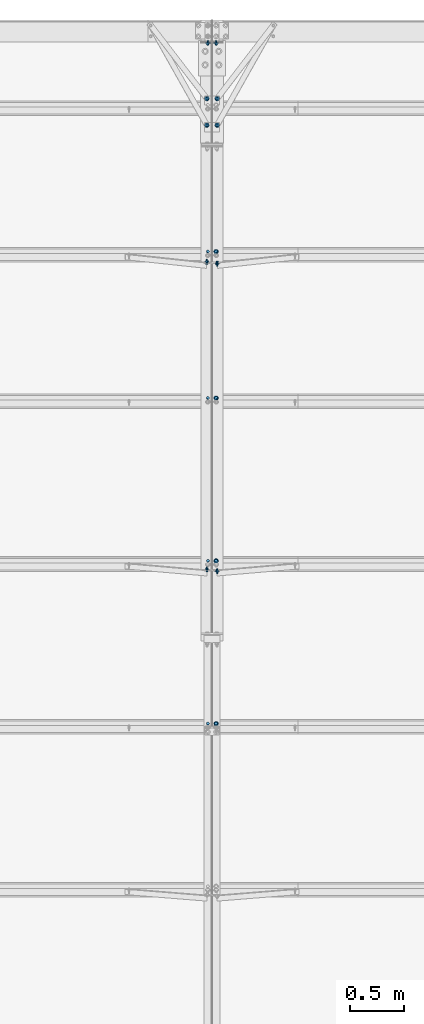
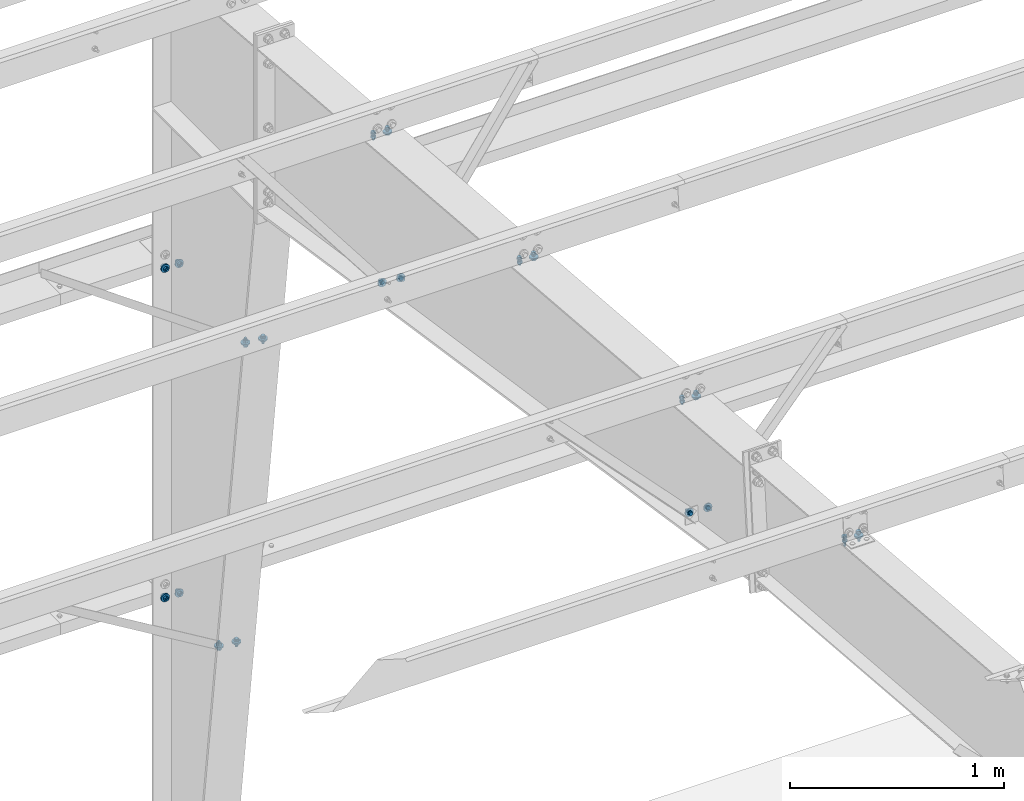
# One storey, part 161 of 185: 28 mechanical fasteners, 16 elements without a shape of their own.
"""IFC2X3 building model written with IfcOpenShell, lengths in millimetres."""

from ifc_helpers import new_model, si_unit, frame, origin_with_axes, origin_2d_with_axis, place, context, subcontext, project, spatial, polyline, circle, outline, extrude, source, transform, mapped, material, type_object, element, aggregate, save


model = new_model("IFC2X3")

# Units and contexts
model_context = context("Model", 3, precision=1e-05, world=origin_with_axes())
body_context = subcontext(model_context, "Body", "Model", "MODEL_VIEW")
ifc_project = project(units=[si_unit("LENGTHUNIT", "METRE", prefix="MILLI"), si_unit("AREAUNIT", "SQUARE_METRE"), si_unit("VOLUMEUNIT", "CUBIC_METRE"), si_unit("MASSUNIT", "GRAM", prefix="KILO"), si_unit("TIMEUNIT", "SECOND"), si_unit("PLANEANGLEUNIT", "RADIAN"), si_unit("SOLIDANGLEUNIT", "STERADIAN"), si_unit("THERMODYNAMICTEMPERATUREUNIT", "DEGREE_CELSIUS"), si_unit("LUMINOUSINTENSITYUNIT", "LUMEN")], contexts=[model_context])

# Site, building, storey
site_placement = place(None, origin_with_axes())
site = spatial("IfcSite", under=ifc_project, at=site_placement, Name="Undefined", CompositionType="ELEMENT")
building_placement = place(site_placement, origin_with_axes())
building = spatial("IfcBuilding", under=site, at=building_placement, Name="Undefined", CompositionType="ELEMENT")
storey_placement = place(building_placement, origin_with_axes())
storey = spatial("IfcBuildingStorey", under=building, at=storey_placement, Name="Undefined", CompositionType="ELEMENT", Elevation=0.0)

# Assembly, mechanical fastener
assembly_1_placement = place(storey_placement, origin_with_axes())
assembly_1 = element("IfcElementAssembly", 1, at=assembly_1_placement, inside=storey, Name="Steel Assembly", AssemblyPlace="NOTDEFINED", PredefinedType="RIGID_FRAME")
ifc_material_1 = material(Name="Undefined")
discrete_accessory_type = type_object("IfcDiscreteAccessoryType", Name="Bolt assembly")
shared_shape_1 = source(origin_with_axes(), body_context, "Body", "SweptSolid", [
    extrude(circle(Radius=7.14374971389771, at=origin_2d_with_axis()), frame((0.0, -1.59000001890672, 0.0), z_axis=(0.0, 1.0, 0.0), x_axis=(1.0, 0.0, 0.0)), (0.0, 0.0, 1.0), 1.7),
    extrude(outline(polyline([(10.9985221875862, 0.0), (5.4992610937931, 9.52499961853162), (-5.4992610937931, 9.52499961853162), (-10.9985221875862, 0.0), (-5.4992610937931, -9.52499961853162), (5.4992610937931, -9.52499961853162), (10.9985221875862, 0.0)])), frame((0.0, -15.0837496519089, 0.0), z_axis=(0.0, 1.0, 0.0), x_axis=(1.0, 0.0, 0.0)), (0.0, 0.0, 1.0), 9.5),
    extrude(circle(Radius=6.34999990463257, at=origin_2d_with_axis()), frame((0.0, -5.5587500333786, 0.0), z_axis=(0.0, 1.0, 0.0), x_axis=(1.0, 0.0, 0.0)), (0.0, 0.0, 1.0), 38.1),
    extrude(circle(Radius=13.4937496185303, at=origin_2d_with_axis()), frame((0.0, -5.5587500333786, 0.0), z_axis=(0.0, 1.0, 0.0), x_axis=(1.0, 0.0, 0.0)), (0.0, 0.0, 1.0), 4.0),
    extrude(circle(Radius=22.2250003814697, at=origin_2d_with_axis()), frame((0.0, 0.0, 0.0), z_axis=(0.0, 1.0, 0.0), x_axis=(1.0, 0.0, 0.0)), (0.0, 0.0, 1.0), 7.9),
    extrude(outline(polyline([(12.8316099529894, 0.0), (6.4158049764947, 11.1125001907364), (-6.4158049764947, 11.1125001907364), (-12.8316099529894, 0.0), (-6.4158049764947, -11.1125001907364), (6.4158049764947, -11.1125001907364), (12.8316099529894, 0.0)])), frame((0.0, 7.93750000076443, 0.0), z_axis=(0.0, 1.0, 0.0), x_axis=(1.0, 0.0, 0.0)), (0.0, 0.0, 1.0), 12.3),
])
mechanical_fastener_1_placement = place(assembly_1_placement, frame((22526.3218854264, 31022.2634783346, 4165.6), z_axis=(-0.871364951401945, 0.490635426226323, 0.0), x_axis=(0.490635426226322, 0.871364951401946, 0.0)))
mechanical_fastener_1 = element("IfcMechanicalFastener", 2, at=mechanical_fastener_1_placement, type_object=discrete_accessory_type, material=ifc_material_1, Name="Bolt assembly", NominalDiameter=12.6999998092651, NominalLength=38.0999984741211, context=body_context, shape_type="MappedRepresentation", body=[
    mapped(shared_shape_1, transform((0.0, 0.0, 0.0))),
])
aggregate(assembly_1, [mechanical_fastener_1])

assembly_2_placement = place(storey_placement, origin_with_axes())
assembly_2 = element("IfcElementAssembly", 3, at=assembly_2_placement, inside=storey, Name="Steel Assembly", AssemblyPlace="NOTDEFINED", PredefinedType="RIGID_FRAME")
mechanical_fastener_2_placement = place(assembly_2_placement, frame((22526.4399844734, 31270.1836420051, 2286.0), z_axis=(-0.793374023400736, 0.608734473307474, 0.0), x_axis=(0.608734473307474, 0.793374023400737, 0.0)))
mechanical_fastener_2 = element("IfcMechanicalFastener", 4, at=mechanical_fastener_2_placement, type_object=discrete_accessory_type, material=ifc_material_1, Name="Bolt assembly", NominalDiameter=12.6999998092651, NominalLength=38.0999984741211, context=body_context, shape_type="MappedRepresentation", body=[
    mapped(shared_shape_1, transform((0.0, 0.0, 0.0))),
])
aggregate(assembly_2, [mechanical_fastener_2])

assembly_3_placement = place(storey_placement, origin_with_axes())
assembly_3 = element("IfcElementAssembly", 5, at=assembly_3_placement, inside=storey, Name="Steel Assembly", AssemblyPlace="NOTDEFINED", PredefinedType="RIGID_FRAME")
mechanical_fastener_3_placement = place(assembly_3_placement, frame((22431.4738455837, 26870.2303027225, 5718.25976911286), z_axis=(-0.718860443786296, -0.0577294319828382, -0.692753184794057), x_axis=(-0.695154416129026, 0.0596981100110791, 0.716377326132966)))
mechanical_fastener_3 = element("IfcMechanicalFastener", 6, at=mechanical_fastener_3_placement, type_object=discrete_accessory_type, material=ifc_material_1, Name="Bolt assembly", NominalDiameter=12.6999998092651, NominalLength=38.0999984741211, context=body_context, shape_type="MappedRepresentation", body=[
    mapped(shared_shape_1, transform((0.0, 0.0, 0.0))),
])
aggregate(assembly_3, [mechanical_fastener_3])

assembly_4_placement = place(storey_placement, origin_with_axes())
assembly_4 = element("IfcElementAssembly", 7, at=assembly_4_placement, inside=storey, Name="Steel Assembly", AssemblyPlace="NOTDEFINED", PredefinedType="RIGID_FRAME")
mechanical_fastener_4_placement = place(assembly_4_placement, frame((22431.5578036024, 29740.0659329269, 5288.64606931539), z_axis=(-0.791478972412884, -0.0507570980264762, -0.609085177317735), x_axis=(-0.611196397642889, 0.065728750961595, 0.78874501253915)))
mechanical_fastener_4 = element("IfcMechanicalFastener", 8, at=mechanical_fastener_4_placement, type_object=discrete_accessory_type, material=ifc_material_1, Name="Bolt assembly", NominalDiameter=12.6999998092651, NominalLength=38.0999984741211, context=body_context, shape_type="MappedRepresentation", body=[
    mapped(shared_shape_1, transform((0.0, 0.0, 0.0))),
])
aggregate(assembly_4, [mechanical_fastener_4])

assembly_5_placement = place(storey_placement, origin_with_axes())
assembly_5 = element("IfcElementAssembly", 9, at=assembly_5_placement, inside=storey, Name="Steel Assembly", AssemblyPlace="NOTDEFINED", PredefinedType="RIGID_FRAME")
shared_shape_2 = source(origin_with_axes(), body_context, "Body", "SweptSolid", [
    extrude(circle(Radius=7.14374971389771, at=origin_2d_with_axis()), frame((0.0, 0.0, 0.0), z_axis=(0.0, 1.0, 0.0), x_axis=(1.0, 0.0, 0.0)), (0.0, 0.0, 1.0), 1.7),
    extrude(outline(polyline([(10.9985221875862, 0.0), (5.4992610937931, 9.52499961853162), (-5.4992610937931, 9.52499961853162), (-10.9985221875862, 0.0), (-5.4992610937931, -9.52499961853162), (5.4992610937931, -9.52499961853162), (10.9985221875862, 0.0)])), frame((0.0, -13.4937496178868, 0.0), z_axis=(0.0, 1.0, 0.0), x_axis=(1.0, 0.0, 0.0)), (0.0, 0.0, 1.0), 9.5),
    extrude(circle(Radius=6.34999990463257, at=origin_2d_with_axis()), frame((0.0, -3.96874999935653, 0.0), z_axis=(0.0, 1.0, 0.0), x_axis=(1.0, 0.0, 0.0)), (0.0, 0.0, 1.0), 38.1),
    extrude(circle(Radius=13.4937496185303, at=origin_2d_with_axis()), frame((0.0, -3.96874999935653, 0.0), z_axis=(0.0, 1.0, 0.0), x_axis=(1.0, 0.0, 0.0)), (0.0, 0.0, 1.0), 4.0),
    extrude(circle(Radius=22.2250003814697, at=origin_2d_with_axis()), frame((0.0, 1.5900000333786, 0.0), z_axis=(0.0, 1.0, 0.0), x_axis=(1.0, 0.0, 0.0)), (0.0, 0.0, 1.0), 7.9),
    extrude(outline(polyline([(12.8316099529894, 0.0), (6.4158049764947, 11.1125001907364), (-6.4158049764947, 11.1125001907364), (-12.8316099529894, 0.0), (-6.4158049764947, -11.1125001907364), (6.4158049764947, -11.1125001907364), (12.8316099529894, 0.0)])), frame((0.0, 9.5275000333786, 0.0), z_axis=(0.0, 1.0, 0.0), x_axis=(1.0, 0.0, 0.0)), (0.0, 0.0, 1.0), 12.3),
])
mechanical_fastener_5_placement = place(assembly_5_placement, frame((22431.6781145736, 31022.2634783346, 4165.6), z_axis=(0.871364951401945, 0.490635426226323, 0.0), x_axis=(-0.490635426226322, 0.871364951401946, 0.0)))
mechanical_fastener_5 = element("IfcMechanicalFastener", 10, at=mechanical_fastener_5_placement, type_object=discrete_accessory_type, material=ifc_material_1, Name="Bolt assembly", NominalDiameter=12.6999998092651, NominalLength=38.0999984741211, context=body_context, shape_type="MappedRepresentation", body=[
    mapped(shared_shape_2, transform((0.0, 0.0, 0.0))),
])
aggregate(assembly_5, [mechanical_fastener_5])

assembly_6_placement = place(storey_placement, origin_with_axes())
assembly_6 = element("IfcElementAssembly", 11, at=assembly_6_placement, inside=storey, Name="Steel Assembly", AssemblyPlace="NOTDEFINED", PredefinedType="RIGID_FRAME")
mechanical_fastener_6_placement = place(assembly_6_placement, frame((22431.5600155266, 31270.1836420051, 2286.0), z_axis=(0.793374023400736, 0.608734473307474, 0.0), x_axis=(-0.608734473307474, 0.793374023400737, 0.0)))
mechanical_fastener_6 = element("IfcMechanicalFastener", 12, at=mechanical_fastener_6_placement, type_object=discrete_accessory_type, material=ifc_material_1, Name="Bolt assembly", NominalDiameter=12.6999998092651, NominalLength=38.0999984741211, context=body_context, shape_type="MappedRepresentation", body=[
    mapped(shared_shape_2, transform((0.0, 0.0, 0.0))),
])
aggregate(assembly_6, [mechanical_fastener_6])

assembly_7_placement = place(storey_placement, origin_with_axes())
assembly_7 = element("IfcElementAssembly", 13, at=assembly_7_placement, inside=storey, Name="Steel Assembly", AssemblyPlace="NOTDEFINED", PredefinedType="RIGID_FRAME")
mechanical_fastener_7_placement = place(assembly_7_placement, frame((22526.5261544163, 26870.2303027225, 5718.25976911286), z_axis=(0.718860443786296, -0.0577294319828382, -0.692753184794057), x_axis=(0.695154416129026, 0.0596981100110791, 0.716377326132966)))
mechanical_fastener_7 = element("IfcMechanicalFastener", 14, at=mechanical_fastener_7_placement, type_object=discrete_accessory_type, material=ifc_material_1, Name="Bolt assembly", NominalDiameter=12.6999998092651, NominalLength=38.0999984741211, context=body_context, shape_type="MappedRepresentation", body=[
    mapped(shared_shape_2, transform((0.0, 0.0, 0.0))),
])
aggregate(assembly_7, [mechanical_fastener_7])

assembly_8_placement = place(storey_placement, origin_with_axes())
assembly_8 = element("IfcElementAssembly", 15, at=assembly_8_placement, inside=storey, Name="Steel Assembly", AssemblyPlace="NOTDEFINED", PredefinedType="RIGID_FRAME")
mechanical_fastener_8_placement = place(assembly_8_placement, frame((22526.4421963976, 29740.0659329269, 5288.64606931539), z_axis=(0.791478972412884, -0.0507570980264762, -0.609085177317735), x_axis=(0.611196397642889, 0.065728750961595, 0.78874501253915)))
mechanical_fastener_8 = element("IfcMechanicalFastener", 16, at=mechanical_fastener_8_placement, type_object=discrete_accessory_type, material=ifc_material_1, Name="Bolt assembly", NominalDiameter=12.6999998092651, NominalLength=38.0999984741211, context=body_context, shape_type="MappedRepresentation", body=[
    mapped(shared_shape_2, transform((0.0, 0.0, 0.0))),
])
aggregate(assembly_8, [mechanical_fastener_8])

# Assembly, mechanical fasteners
assembly_9_placement = place(storey_placement, origin_with_axes())
assembly_9 = element("IfcElementAssembly", 17, at=assembly_9_placement, inside=storey, Name="Steel Assembly", AssemblyPlace="NOTDEFINED", PredefinedType="RIGID_FRAME")
ifc_material_2 = material(Name="7990")
shared_shape_3 = source(origin_with_axes(), body_context, "Body", "SweptSolid", [
    extrude(circle(Radius=7.14374971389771, at=origin_2d_with_axis()), frame((0.0, -3.41600000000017, 0.0), z_axis=(0.0, 1.0, 0.0), x_axis=(1.0, 0.0, 0.0)), (0.0, 0.0, 1.0), 3.5),
    extrude(circle(Radius=11.4299998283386, at=origin_2d_with_axis()), frame((0.0, 0.0, 0.0), z_axis=(0.0, 1.0, 0.0), x_axis=(1.0, 0.0, 0.0)), (0.0, 0.0, 1.0), 4.2),
    extrude(outline(polyline([(12.171698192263, 0.0), (6.08584909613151, 10.5409998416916), (-6.08584909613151, 10.5409998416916), (-12.171698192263, 0.0), (-6.08584909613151, -10.5409998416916), (6.08584909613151, -10.5409998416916), (12.171698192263, 0.0)])), frame((0.0, 4.1909999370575, 0.0), z_axis=(0.0, 1.0, 0.0), x_axis=(1.0, 0.0, 0.0)), (0.0, 0.0, 1.0), 8.4),
])
mechanical_fastener_9_placement = place(assembly_9_placement, frame((22525.83125, 31021.3921133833, 4165.6), z_axis=(-0.921635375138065, -0.388057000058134, 0.0), x_axis=(0.388057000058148, -0.921635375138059, 0.0)))
mechanical_fastener_9 = element("IfcMechanicalFastener", 18, at=mechanical_fastener_9_placement, type_object=discrete_accessory_type, material=ifc_material_2, Name="Bolt assembly", NominalDiameter=12.6999998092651, NominalLength=38.0999984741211, context=body_context, shape_type="MappedRepresentation", body=[
    mapped(shared_shape_3, transform((0.0, 0.0, 0.0))),
])
mechanical_fastener_10_placement = place(assembly_9_placement, frame((22525.83125, 31269.3902679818, 2286.0), z_axis=(-0.921635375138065, -0.388057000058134, 0.0), x_axis=(0.388057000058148, -0.921635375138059, 0.0)))
mechanical_fastener_10 = element("IfcMechanicalFastener", 19, at=mechanical_fastener_10_placement, type_object=discrete_accessory_type, material=ifc_material_2, Name="Bolt assembly", NominalDiameter=12.6999998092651, NominalLength=38.0999984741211, context=body_context, shape_type="MappedRepresentation", body=[
    mapped(shared_shape_3, transform((0.0, 0.0, 0.0))),
])

assembly_10_placement = place(storey_placement, origin_with_axes())
assembly_10 = element("IfcElementAssembly", 20, at=assembly_10_placement, inside=storey, Name="Steel Assembly", AssemblyPlace="NOTDEFINED", PredefinedType="RIGID_FRAME")
mechanical_fastener_11_placement = place(assembly_10_placement, frame((22525.831, 26870.1706046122, 5717.54339178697), z_axis=(-0.921635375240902, -0.0322263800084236, -0.386716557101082), x_axis=(0.388056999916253, -0.0765376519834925, -0.918451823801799)))
mechanical_fastener_11 = element("IfcMechanicalFastener", 21, at=mechanical_fastener_11_placement, type_object=discrete_accessory_type, material=ifc_material_2, Name="Bolt assembly", NominalDiameter=12.6999998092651, NominalLength=38.0999984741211, context=body_context, shape_type="MappedRepresentation", body=[
    mapped(shared_shape_3, transform((0.0, 0.0, 0.0))),
])
mechanical_fastener_12_placement = place(assembly_10_placement, frame((22525.831, 29740.0002041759, 5287.85732430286), z_axis=(-0.921635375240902, -0.0322263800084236, -0.386716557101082), x_axis=(0.388056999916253, -0.0765376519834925, -0.918451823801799)))
mechanical_fastener_12 = element("IfcMechanicalFastener", 22, at=mechanical_fastener_12_placement, type_object=discrete_accessory_type, material=ifc_material_2, Name="Bolt assembly", NominalDiameter=12.6999998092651, NominalLength=38.0999984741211, context=body_context, shape_type="MappedRepresentation", body=[
    mapped(shared_shape_3, transform((0.0, 0.0, 0.0))),
])

# Mechanical fastener
shared_shape_4 = source(origin_with_axes(), body_context, "Body", "SweptSolid", [
    extrude(circle(Radius=7.14374971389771, at=origin_2d_with_axis()), frame((0.0, 0.0, 0.0), z_axis=(0.0, 1.0, 0.0), x_axis=(1.0, 0.0, 0.0)), (0.0, 0.0, 1.0), 3.5),
    extrude(circle(Radius=11.4299998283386, at=origin_2d_with_axis()), frame((0.0, 3.41600000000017, 0.0), z_axis=(0.0, 1.0, 0.0), x_axis=(1.0, 0.0, 0.0)), (0.0, 0.0, 1.0), 4.2),
    extrude(outline(polyline([(12.171698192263, 0.0), (6.08584909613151, 10.5409998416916), (-6.08584909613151, 10.5409998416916), (-12.171698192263, 0.0), (-6.08584909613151, -10.5409998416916), (6.08584909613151, -10.5409998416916), (12.171698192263, 0.0)])), frame((0.0, 7.60699993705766, 0.0), z_axis=(0.0, 1.0, 0.0), x_axis=(1.0, 0.0, 0.0)), (0.0, 0.0, 1.0), 8.4),
])
mechanical_fastener_13_placement = place(assembly_9_placement, frame((22432.16875, 31021.3921133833, 4165.6), z_axis=(0.921635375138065, -0.388057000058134, 0.0), x_axis=(-0.388057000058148, -0.921635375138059, 0.0)))
mechanical_fastener_13 = element("IfcMechanicalFastener", 23, at=mechanical_fastener_13_placement, type_object=discrete_accessory_type, material=ifc_material_2, Name="Bolt assembly", NominalDiameter=12.6999998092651, NominalLength=38.0999984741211, context=body_context, shape_type="MappedRepresentation", body=[
    mapped(shared_shape_4, transform((0.0, 0.0, 0.0))),
])

mechanical_fastener_14_placement = place(assembly_9_placement, frame((22432.16875, 31269.3902679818, 2286.0), z_axis=(0.921635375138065, -0.388057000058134, 0.0), x_axis=(-0.388057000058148, -0.921635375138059, 0.0)))
mechanical_fastener_14 = element("IfcMechanicalFastener", 24, at=mechanical_fastener_14_placement, type_object=discrete_accessory_type, material=ifc_material_2, Name="Bolt assembly", NominalDiameter=12.6999998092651, NominalLength=38.0999984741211, context=body_context, shape_type="MappedRepresentation", body=[
    mapped(shared_shape_4, transform((0.0, 0.0, 0.0))),
])

aggregate(assembly_9, [mechanical_fastener_9, mechanical_fastener_13, mechanical_fastener_10, mechanical_fastener_14])

mechanical_fastener_15_placement = place(assembly_10_placement, frame((22432.169, 26870.1706046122, 5717.54339178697), z_axis=(0.921635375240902, -0.0322263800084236, -0.386716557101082), x_axis=(-0.388056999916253, -0.0765376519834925, -0.918451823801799)))
mechanical_fastener_15 = element("IfcMechanicalFastener", 25, at=mechanical_fastener_15_placement, type_object=discrete_accessory_type, material=ifc_material_2, Name="Bolt assembly", NominalDiameter=12.6999998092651, NominalLength=38.0999984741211, context=body_context, shape_type="MappedRepresentation", body=[
    mapped(shared_shape_4, transform((0.0, 0.0, 0.0))),
])

mechanical_fastener_16_placement = place(assembly_10_placement, frame((22432.169, 29740.0002041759, 5287.85732430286), z_axis=(0.921635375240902, -0.0322263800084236, -0.386716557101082), x_axis=(-0.388056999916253, -0.0765376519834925, -0.918451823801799)))
mechanical_fastener_16 = element("IfcMechanicalFastener", 26, at=mechanical_fastener_16_placement, type_object=discrete_accessory_type, material=ifc_material_2, Name="Bolt assembly", NominalDiameter=12.6999998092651, NominalLength=38.0999984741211, context=body_context, shape_type="MappedRepresentation", body=[
    mapped(shared_shape_4, transform((0.0, 0.0, 0.0))),
])

aggregate(assembly_10, [mechanical_fastener_15, mechanical_fastener_11, mechanical_fastener_16, mechanical_fastener_12])

# Assembly, mechanical fasteners
assembly_11_placement = place(storey_placement, origin_with_axes())
assembly_11 = element("IfcElementAssembly", 27, at=assembly_11_placement, inside=storey, Name="Steel Assembly", AssemblyPlace="NOTDEFINED", PredefinedType="RIGID_FRAME")
shared_shape_5 = source(origin_with_axes(), body_context, "Body", "SweptSolid", [
    extrude(circle(Radius=7.14374971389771, at=origin_2d_with_axis()), frame((0.0, -3.08000006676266, 0.0), z_axis=(0.0, 1.0, 0.0), x_axis=(1.0, 0.0, 0.0)), (0.0, 0.0, 1.0), 3.2),
    extrude(circle(Radius=7.14374971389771, at=origin_2d_with_axis()), frame((0.0, -3.08000006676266, 0.0), z_axis=(0.0, 1.0, 0.0), x_axis=(1.0, 0.0, 0.0)), (0.0, 0.0, 1.0), 3.2),
    extrude(circle(Radius=7.14374971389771, at=origin_2d_with_axis()), frame((0.0, -0.1, 0.0), z_axis=(0.0, 1.0, 0.0), x_axis=(1.0, 0.0, 0.0)), (0.0, 0.0, 1.0), 8.0),
    extrude(outline(polyline([(10.9985221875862, 0.0), (5.4992610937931, 9.52499961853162), (-5.4992610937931, 9.52499961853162), (-10.9985221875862, 0.0), (-5.4992610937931, -9.52499961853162), (5.4992610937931, -9.52499961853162), (10.9985221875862, 0.0)])), frame((0.0, -12.7050014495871, 0.0), z_axis=(0.0, 1.0, 0.0), x_axis=(1.0, 0.0, 0.0)), (0.0, 0.0, 1.0), 9.5),
    extrude(circle(Radius=6.34999990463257, at=origin_2d_with_axis()), frame((0.0, -3.18000030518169, 0.0), z_axis=(0.0, 1.0, 0.0), x_axis=(1.0, 0.0, 0.0)), (0.0, 0.0, 1.0), 38.1),
    extrude(circle(Radius=22.2250003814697, at=origin_2d_with_axis()), frame((0.0, 7.87399999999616, 0.0), z_axis=(0.0, 1.0, 0.0), x_axis=(1.0, 0.0, 0.0)), (0.0, 0.0, 1.0), 7.9),
    extrude(outline(polyline([(12.8316099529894, 0.0), (6.4158049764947, 11.1125001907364), (-6.4158049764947, 11.1125001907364), (-12.8316099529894, 0.0), (-6.4158049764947, -11.1125001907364), (6.4158049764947, -11.1125001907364), (12.8316099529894, 0.0)])), frame((0.0, 15.8114999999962, 0.0), z_axis=(0.0, 1.0, 0.0), x_axis=(1.0, 0.0, 0.0)), (0.0, 0.0, 1.0), 12.3),
])
mechanical_fastener_17_placement = place(assembly_11_placement, frame((22440.9, 31800.8, 2247.9), z_axis=(-1.0, 0.0, 0.0), x_axis=(0.0, 0.0, -1.0)))
mechanical_fastener_17 = element("IfcMechanicalFastener", 28, at=mechanical_fastener_17_placement, type_object=discrete_accessory_type, material=ifc_material_1, Name="Bolt assembly", NominalDiameter=12.6999998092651, NominalLength=38.0999984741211, context=body_context, shape_type="MappedRepresentation", body=[
    mapped(shared_shape_5, transform((0.0, 0.0, 0.0))),
])
mechanical_fastener_18_placement = place(assembly_11_placement, frame((22517.1, 31800.8, 2247.9), z_axis=(-1.0, 0.0, 0.0), x_axis=(0.0, 0.0, -1.0)))
mechanical_fastener_18 = element("IfcMechanicalFastener", 29, at=mechanical_fastener_18_placement, type_object=discrete_accessory_type, material=ifc_material_1, Name="Bolt assembly", NominalDiameter=12.6999998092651, NominalLength=38.0999984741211, context=body_context, shape_type="MappedRepresentation", body=[
    mapped(shared_shape_5, transform((0.0, 0.0, 0.0))),
])
aggregate(assembly_11, [mechanical_fastener_17, mechanical_fastener_18])

assembly_12_placement = place(storey_placement, origin_with_axes())
assembly_12 = element("IfcElementAssembly", 30, at=assembly_12_placement, inside=storey, Name="Steel Assembly", AssemblyPlace="NOTDEFINED", PredefinedType="RIGID_FRAME")
mechanical_fastener_19_placement = place(assembly_12_placement, frame((22440.9, 31800.8, 4127.5), z_axis=(-1.0, 0.0, 0.0), x_axis=(0.0, 0.0, -1.0)))
mechanical_fastener_19 = element("IfcMechanicalFastener", 31, at=mechanical_fastener_19_placement, type_object=discrete_accessory_type, material=ifc_material_1, Name="Bolt assembly", NominalDiameter=12.6999998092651, NominalLength=38.0999984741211, context=body_context, shape_type="MappedRepresentation", body=[
    mapped(shared_shape_5, transform((0.0, 0.0, 0.0))),
])
mechanical_fastener_20_placement = place(assembly_12_placement, frame((22517.1, 31800.8, 4127.5), z_axis=(-1.0, 0.0, 0.0), x_axis=(0.0, 0.0, -1.0)))
mechanical_fastener_20 = element("IfcMechanicalFastener", 32, at=mechanical_fastener_20_placement, type_object=discrete_accessory_type, material=ifc_material_1, Name="Bolt assembly", NominalDiameter=12.6999998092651, NominalLength=38.0999984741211, context=body_context, shape_type="MappedRepresentation", body=[
    mapped(shared_shape_5, transform((0.0, 0.0, 0.0))),
])
aggregate(assembly_12, [mechanical_fastener_19, mechanical_fastener_20])

assembly_13_placement = place(storey_placement, origin_with_axes())
assembly_13 = element("IfcElementAssembly", 33, at=assembly_13_placement, inside=storey, Name="Steel Assembly", AssemblyPlace="NOTDEFINED", PredefinedType="RIGID_FRAME")
shared_shape_6 = source(origin_with_axes(), body_context, "Body", "SweptSolid", [
    extrude(circle(Radius=7.14374971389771, at=origin_2d_with_axis()), frame((0.0, -0.0238014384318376, 0.0), z_axis=(0.0, 1.0, 0.0), x_axis=(1.0, 0.0, 0.0)), (0.0, 0.0, 1.0), 8.0),
    extrude(circle(Radius=7.14374971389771, at=origin_2d_with_axis()), frame((0.0, -3.08000006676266, 0.0), z_axis=(0.0, 1.0, 0.0), x_axis=(1.0, 0.0, 0.0)), (0.0, 0.0, 1.0), 3.2),
    extrude(circle(Radius=7.14374971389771, at=origin_2d_with_axis()), frame((0.0, -3.08000006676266, 0.0), z_axis=(0.0, 1.0, 0.0), x_axis=(1.0, 0.0, 0.0)), (0.0, 0.0, 1.0), 3.2),
    extrude(outline(polyline([(12.8316099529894, 0.0), (6.4158049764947, 11.1125001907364), (-6.4158049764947, 11.1125001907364), (-12.8316099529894, 0.0), (-6.4158049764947, -11.1125001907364), (6.4158049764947, -11.1125001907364), (12.8316099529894, 0.0)])), frame((0.0, -15.08625183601, 0.0), z_axis=(0.0, 1.0, 0.0), x_axis=(1.0, 0.0, 0.0)), (0.0, 0.0, 1.0), 7.9),
    extrude(circle(Radius=6.34999990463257, at=origin_2d_with_axis()), frame((0.0, -7.14875006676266, 0.0), z_axis=(0.0, 1.0, 0.0), x_axis=(1.0, 0.0, 0.0)), (0.0, 0.0, 1.0), 50.8),
    extrude(circle(Radius=13.4937496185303, at=origin_2d_with_axis()), frame((0.0, -7.14875006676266, 0.0), z_axis=(0.0, 1.0, 0.0), x_axis=(1.0, 0.0, 0.0)), (0.0, 0.0, 1.0), 4.0),
    extrude(circle(Radius=22.2250003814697, at=origin_2d_with_axis()), frame((0.0, 7.95019856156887, 0.0), z_axis=(0.0, 1.0, 0.0), x_axis=(1.0, 0.0, 0.0)), (0.0, 0.0, 1.0), 7.9),
    extrude(outline(polyline([(12.8316099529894, 0.0), (6.4158049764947, 11.1125001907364), (-6.4158049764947, 11.1125001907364), (-12.8316099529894, 0.0), (-6.4158049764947, -11.1125001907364), (6.4158049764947, -11.1125001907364), (12.8316099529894, 0.0)])), frame((0.0, 15.8876985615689, 0.0), z_axis=(0.0, 1.0, 0.0), x_axis=(1.0, 0.0, 0.0)), (0.0, 0.0, 1.0), 12.3),
])
mechanical_fastener_21_placement = place(assembly_13_placement, frame((22517.1, 25439.2546863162, 6439.15777570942), z_axis=(-1.0, 0.0, 0.0), x_axis=(0.0, 0.996545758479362, -0.0830454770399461)))
mechanical_fastener_21 = element("IfcMechanicalFastener", 34, at=mechanical_fastener_21_placement, type_object=discrete_accessory_type, material=ifc_material_1, Name="Bolt assembly", NominalDiameter=12.6999998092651, NominalLength=50.7999992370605, context=body_context, shape_type="MappedRepresentation", body=[
    mapped(shared_shape_6, transform((0.0, 0.0, 0.0))),
])
shared_shape_7 = source(origin_with_axes(), body_context, "Body", "SweptSolid", [
    extrude(circle(Radius=7.14374971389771, at=origin_2d_with_axis()), frame((0.0, -0.0238014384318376, 0.0), z_axis=(0.0, 1.0, 0.0), x_axis=(1.0, 0.0, 0.0)), (0.0, 0.0, 1.0), 8.0),
    extrude(circle(Radius=7.14374971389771, at=origin_2d_with_axis()), frame((0.0, -3.08000006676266, 0.0), z_axis=(0.0, 1.0, 0.0), x_axis=(1.0, 0.0, 0.0)), (0.0, 0.0, 1.0), 3.2),
    extrude(circle(Radius=7.14374971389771, at=origin_2d_with_axis()), frame((0.0, -3.08000006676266, 0.0), z_axis=(0.0, 1.0, 0.0), x_axis=(1.0, 0.0, 0.0)), (0.0, 0.0, 1.0), 3.2),
    extrude(outline(polyline([(12.8316099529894, 0.0), (6.4158049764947, 11.1125001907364), (-6.4158049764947, 11.1125001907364), (-12.8316099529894, 0.0), (-6.4158049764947, -11.1125001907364), (6.4158049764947, -11.1125001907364), (12.8316099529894, 0.0)])), frame((0.0, -15.08625183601, 0.0), z_axis=(0.0, 1.0, 0.0), x_axis=(1.0, 0.0, 0.0)), (0.0, 0.0, 1.0), 7.9),
    extrude(circle(Radius=6.34999990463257, at=origin_2d_with_axis()), frame((0.0, -7.14875006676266, 0.0), z_axis=(0.0, 1.0, 0.0), x_axis=(1.0, 0.0, 0.0)), (0.0, 0.0, 1.0), 50.8),
    extrude(circle(Radius=13.4937496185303, at=origin_2d_with_axis()), frame((0.0, -7.14875006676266, 0.0), z_axis=(0.0, 1.0, 0.0), x_axis=(1.0, 0.0, 0.0)), (0.0, 0.0, 1.0), 4.0),
    extrude(outline(polyline([(12.8316099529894, 0.0), (6.4158049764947, 11.1125001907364), (-6.4158049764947, 11.1125001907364), (-12.8316099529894, 0.0), (-6.4158049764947, -11.1125001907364), (6.4158049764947, -11.1125001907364), (12.8316099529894, 0.0)])), frame((0.0, 7.95019856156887, 0.0), z_axis=(0.0, 1.0, 0.0), x_axis=(1.0, 0.0, 0.0)), (0.0, 0.0, 1.0), 12.3),
])
mechanical_fastener_22_placement = place(assembly_13_placement, frame((22440.9, 25439.2546863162, 6439.15777570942), z_axis=(-1.0, 0.0, 0.0), x_axis=(0.0, 0.996545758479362, -0.0830454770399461)))
mechanical_fastener_22 = element("IfcMechanicalFastener", 35, at=mechanical_fastener_22_placement, type_object=discrete_accessory_type, material=ifc_material_1, Name="Bolt assembly", NominalDiameter=12.6999998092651, NominalLength=50.7999992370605, context=body_context, shape_type="MappedRepresentation", body=[
    mapped(shared_shape_7, transform((0.0, 0.0, 0.0))),
])
aggregate(assembly_13, [mechanical_fastener_21, mechanical_fastener_22])

# Assembly, mechanical fastener
assembly_14_placement = place(storey_placement, origin_with_axes())
assembly_14 = element("IfcElementAssembly", 36, at=assembly_14_placement, inside=storey, Name="Steel Assembly", AssemblyPlace="NOTDEFINED", PredefinedType="RIGID_FRAME")
shared_shape_8 = source(origin_with_axes(), body_context, "Body", "SweptSolid", [
    extrude(circle(Radius=7.14374971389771, at=origin_2d_with_axis()), frame((0.0, -0.0238014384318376, 0.0), z_axis=(0.0, 1.0, 0.0), x_axis=(1.0, 0.0, 0.0)), (0.0, 0.0, 1.0), 8.0),
    extrude(circle(Radius=7.14374971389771, at=origin_2d_with_axis()), frame((0.0, -3.08000006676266, 0.0), z_axis=(0.0, 1.0, 0.0), x_axis=(1.0, 0.0, 0.0)), (0.0, 0.0, 1.0), 3.2),
    extrude(circle(Radius=7.14374971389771, at=origin_2d_with_axis()), frame((0.0, -3.08000006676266, 0.0), z_axis=(0.0, 1.0, 0.0), x_axis=(1.0, 0.0, 0.0)), (0.0, 0.0, 1.0), 3.2),
    extrude(outline(polyline([(10.9985221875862, 0.0), (5.4992610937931, 9.52499961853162), (-5.4992610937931, 9.52499961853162), (-10.9985221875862, 0.0), (-5.4992610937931, -9.52499961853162), (5.4992610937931, -9.52499961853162), (10.9985221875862, 0.0)])), frame((0.0, -16.6737496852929, 0.0), z_axis=(0.0, 1.0, 0.0), x_axis=(1.0, 0.0, 0.0)), (0.0, 0.0, 1.0), 9.5),
    extrude(circle(Radius=6.34999990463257, at=origin_2d_with_axis()), frame((0.0, -7.14875006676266, 0.0), z_axis=(0.0, 1.0, 0.0), x_axis=(1.0, 0.0, 0.0)), (0.0, 0.0, 1.0), 38.1),
    extrude(circle(Radius=13.4937496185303, at=origin_2d_with_axis()), frame((0.0, -7.14875006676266, 0.0), z_axis=(0.0, 1.0, 0.0), x_axis=(1.0, 0.0, 0.0)), (0.0, 0.0, 1.0), 4.0),
    extrude(circle(Radius=22.2250003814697, at=origin_2d_with_axis()), frame((0.0, 7.95019856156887, 0.0), z_axis=(0.0, 1.0, 0.0), x_axis=(1.0, 0.0, 0.0)), (0.0, 0.0, 1.0), 7.9),
    extrude(outline(polyline([(12.8316099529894, 0.0), (6.4158049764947, 11.1125001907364), (-6.4158049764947, 11.1125001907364), (-12.8316099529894, 0.0), (-6.4158049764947, -11.1125001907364), (6.4158049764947, -11.1125001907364), (12.8316099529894, 0.0)])), frame((0.0, 15.8876985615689, 0.0), z_axis=(0.0, 1.0, 0.0), x_axis=(1.0, 0.0, 0.0)), (0.0, 0.0, 1.0), 12.3),
])
mechanical_fastener_23_placement = place(assembly_14_placement, frame((22517.1, 29843.5883209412, 6072.12997209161), z_axis=(-1.0, 0.0, 0.0), x_axis=(0.0, 0.996545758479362, -0.0830454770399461)))
mechanical_fastener_23 = element("IfcMechanicalFastener", 37, at=mechanical_fastener_23_placement, type_object=discrete_accessory_type, material=ifc_material_1, Name="Bolt assembly", NominalDiameter=12.6999998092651, NominalLength=38.0999984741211, context=body_context, shape_type="MappedRepresentation", body=[
    mapped(shared_shape_8, transform((0.0, 0.0, 0.0))),
])

assembly_15_placement = place(storey_placement, origin_with_axes())
assembly_15 = element("IfcElementAssembly", 38, at=assembly_15_placement, inside=storey, Name="Steel Assembly", AssemblyPlace="NOTDEFINED", PredefinedType="RIGID_FRAME")
mechanical_fastener_24_placement = place(assembly_15_placement, frame((22517.1, 28476.7261589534, 6186.03515249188), z_axis=(-1.0, 0.0, 0.0), x_axis=(0.0, 0.996545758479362, -0.0830454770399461)))
mechanical_fastener_24 = element("IfcMechanicalFastener", 39, at=mechanical_fastener_24_placement, type_object=discrete_accessory_type, material=ifc_material_1, Name="Bolt assembly", NominalDiameter=12.6999998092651, NominalLength=38.0999984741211, context=body_context, shape_type="MappedRepresentation", body=[
    mapped(shared_shape_8, transform((0.0, 0.0, 0.0))),
])

assembly_16_placement = place(storey_placement, origin_with_axes())
assembly_16 = element("IfcElementAssembly", 40, at=assembly_16_placement, inside=storey, Name="Steel Assembly", AssemblyPlace="NOTDEFINED", PredefinedType="RIGID_FRAME")
mechanical_fastener_25_placement = place(assembly_16_placement, frame((22517.1, 26957.9904234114, 6312.59646404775), z_axis=(-1.0, 0.0, 0.0), x_axis=(0.0, 0.996545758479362, -0.0830454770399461)))
mechanical_fastener_25 = element("IfcMechanicalFastener", 41, at=mechanical_fastener_25_placement, type_object=discrete_accessory_type, material=ifc_material_1, Name="Bolt assembly", NominalDiameter=12.6999998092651, NominalLength=38.0999984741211, context=body_context, shape_type="MappedRepresentation", body=[
    mapped(shared_shape_8, transform((0.0, 0.0, 0.0))),
])

# Mechanical fastener
shared_shape_9 = source(origin_with_axes(), body_context, "Body", "SweptSolid", [
    extrude(circle(Radius=7.14374971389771, at=origin_2d_with_axis()), frame((0.0, -0.0238014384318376, 0.0), z_axis=(0.0, 1.0, 0.0), x_axis=(1.0, 0.0, 0.0)), (0.0, 0.0, 1.0), 8.0),
    extrude(circle(Radius=7.14374971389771, at=origin_2d_with_axis()), frame((0.0, -3.08000006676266, 0.0), z_axis=(0.0, 1.0, 0.0), x_axis=(1.0, 0.0, 0.0)), (0.0, 0.0, 1.0), 3.2),
    extrude(circle(Radius=7.14374971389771, at=origin_2d_with_axis()), frame((0.0, -3.08000006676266, 0.0), z_axis=(0.0, 1.0, 0.0), x_axis=(1.0, 0.0, 0.0)), (0.0, 0.0, 1.0), 3.2),
    extrude(outline(polyline([(10.9985221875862, 0.0), (5.4992610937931, 9.52499961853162), (-5.4992610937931, 9.52499961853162), (-10.9985221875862, 0.0), (-5.4992610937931, -9.52499961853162), (5.4992610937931, -9.52499961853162), (10.9985221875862, 0.0)])), frame((0.0, -16.6737496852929, 0.0), z_axis=(0.0, 1.0, 0.0), x_axis=(1.0, 0.0, 0.0)), (0.0, 0.0, 1.0), 9.5),
    extrude(circle(Radius=6.34999990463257, at=origin_2d_with_axis()), frame((0.0, -7.14875006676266, 0.0), z_axis=(0.0, 1.0, 0.0), x_axis=(1.0, 0.0, 0.0)), (0.0, 0.0, 1.0), 38.1),
    extrude(circle(Radius=13.4937496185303, at=origin_2d_with_axis()), frame((0.0, -7.14875006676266, 0.0), z_axis=(0.0, 1.0, 0.0), x_axis=(1.0, 0.0, 0.0)), (0.0, 0.0, 1.0), 4.0),
    extrude(outline(polyline([(12.8316099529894, 0.0), (6.4158049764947, 11.1125001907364), (-6.4158049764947, 11.1125001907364), (-12.8316099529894, 0.0), (-6.4158049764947, -11.1125001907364), (6.4158049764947, -11.1125001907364), (12.8316099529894, 0.0)])), frame((0.0, 7.95019856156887, 0.0), z_axis=(0.0, 1.0, 0.0), x_axis=(1.0, 0.0, 0.0)), (0.0, 0.0, 1.0), 12.3),
])
mechanical_fastener_26_placement = place(assembly_14_placement, frame((22440.9, 29843.5883209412, 6072.12997209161), z_axis=(-1.0, 0.0, 0.0), x_axis=(0.0, 0.996545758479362, -0.0830454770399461)))
mechanical_fastener_26 = element("IfcMechanicalFastener", 42, at=mechanical_fastener_26_placement, type_object=discrete_accessory_type, material=ifc_material_1, Name="Bolt assembly", NominalDiameter=12.6999998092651, NominalLength=38.0999984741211, context=body_context, shape_type="MappedRepresentation", body=[
    mapped(shared_shape_9, transform((0.0, 0.0, 0.0))),
])

aggregate(assembly_14, [mechanical_fastener_23, mechanical_fastener_26])

mechanical_fastener_27_placement = place(assembly_15_placement, frame((22440.9, 28476.7261589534, 6186.03515249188), z_axis=(-1.0, 0.0, 0.0), x_axis=(0.0, 0.996545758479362, -0.0830454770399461)))
mechanical_fastener_27 = element("IfcMechanicalFastener", 43, at=mechanical_fastener_27_placement, type_object=discrete_accessory_type, material=ifc_material_1, Name="Bolt assembly", NominalDiameter=12.6999998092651, NominalLength=38.0999984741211, context=body_context, shape_type="MappedRepresentation", body=[
    mapped(shared_shape_9, transform((0.0, 0.0, 0.0))),
])

aggregate(assembly_15, [mechanical_fastener_24, mechanical_fastener_27])

mechanical_fastener_28_placement = place(assembly_16_placement, frame((22440.9, 26957.9904234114, 6312.59646404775), z_axis=(-1.0, 0.0, 0.0), x_axis=(0.0, 0.996545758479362, -0.0830454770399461)))
mechanical_fastener_28 = element("IfcMechanicalFastener", 44, at=mechanical_fastener_28_placement, type_object=discrete_accessory_type, material=ifc_material_1, Name="Bolt assembly", NominalDiameter=12.6999998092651, NominalLength=38.0999984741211, context=body_context, shape_type="MappedRepresentation", body=[
    mapped(shared_shape_9, transform((0.0, 0.0, 0.0))),
])

aggregate(assembly_16, [mechanical_fastener_25, mechanical_fastener_28])

save(model, "model.ifc")
